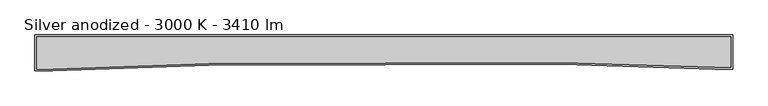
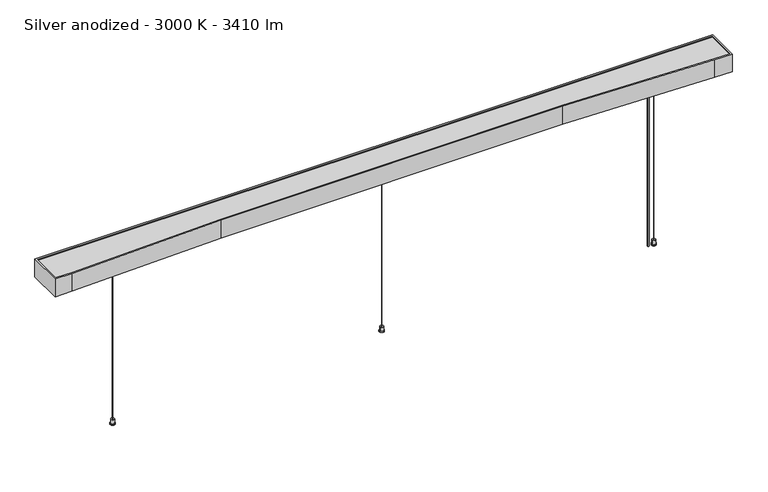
"""IFC4 building model written with IfcOpenShell, lengths in millimetres: light fixture geometry, KLUŚ - MIFOR - MI-WAVE-04 : Silver anodized - 3000 K - 3410 lm."""

import ifcopenshell
import ifcopenshell.guid

model = None  # the IFC model being written
_history = None  # IfcOwnerHistory: only IFC2X3 demands one
_inside = {}  # id of a spatial element -> (the spatial element, [elements in it])
_under = {}  # id of a project, library or spatial element -> (it, [spatial elements below it])
_declared = {}  # id of a project -> (the project, [libraries it declares])
_typed = {}  # id of a type object -> (the type object, [elements of that type])
_made_of = {}  # id of a material, layer set ... -> (it, [elements and type objects made of it])


def new_model(schema):
    """Start an empty IFC model of exactly this schema.

    Asked for "IFC4X3", IfcOpenShell would pick the latest addendum, in which some entities
    have other attributes; the version numbers below select the first issue.
    IFC2X3 requires an IfcOwnerHistory on every rooted entity: one is made here for all.
    """
    global model, _history
    if schema == "IFC4X3":
        model = ifcopenshell.file(schema_version=(4, 3, 0, 0))
    else:
        model = ifcopenshell.file(schema=schema)
    _inside.clear()
    _under.clear()
    _declared.clear()
    _typed.clear()
    _made_of.clear()
    _history = None
    if model.schema == "IFC2X3":
        org = make("IfcOrganization", Name="unknown")
        user = make(
            "IfcPersonAndOrganization",
            ThePerson=make("IfcPerson", FamilyName="unknown"),
            TheOrganization=org,
        )
        app = make(
            "IfcApplication",
            ApplicationDeveloper=org,
            Version="unknown",
            ApplicationFullName="unknown",
            ApplicationIdentifier="unknown",
        )
        _history = make(
            "IfcOwnerHistory",
            OwningUser=user,
            OwningApplication=app,
            ChangeAction="ADDED",
            CreationDate=0,
        )
    return model


def make(cls, **values):
    """One entity of the class cls with the attributes given. An attribute that is None is left unset."""
    return model.create_entity(
        cls, **{name: value for name, value in values.items() if value is not None}
    )


def rooted(cls, **values):
    """An entity with a GlobalId (a new one), such as an element, a storey or a relation."""
    return make(cls, GlobalId=ifcopenshell.guid.new(), OwnerHistory=_history, **values)


def si_unit(unit_type, name, prefix=None):
    """IfcSIUnit, for example si_unit("LENGTHUNIT", "METRE", prefix="MILLI")."""
    return make("IfcSIUnit", UnitType=unit_type, Prefix=prefix, Name=name)


def assignment(units):
    """IfcUnitAssignment: the units of a project."""
    return None if units is None else make("IfcUnitAssignment", Units=units)


def point(xyz):
    """IfcCartesianPoint."""
    return None if xyz is None else make("IfcCartesianPoint", Coordinates=xyz)


def direction(xyz):
    """IfcDirection."""
    return None if xyz is None else make("IfcDirection", DirectionRatios=xyz)


def frame(location, z_axis=None, x_axis=None):
    """IfcAxis2Placement3D, a coordinate frame: its origin and axes. An axis left out is left unset."""
    return make(
        "IfcAxis2Placement3D",
        Location=point(location),
        Axis=direction(z_axis),
        RefDirection=direction(x_axis),
    )


def frame_2d(location, x_axis=None):
    """IfcAxis2Placement2D, a coordinate frame in the plane: its origin and x axis."""
    return make(
        "IfcAxis2Placement2D", Location=point(location), RefDirection=direction(x_axis)
    )


def origin():
    """The frame at (0, 0, 0) with its axes left unset."""
    return frame((0.0, 0.0, 0.0))


def origin_with_axes():
    """The frame at (0, 0, 0) with the z axis (0, 0, 1) and the x axis (1, 0, 0) written out."""
    return frame((0.0, 0.0, 0.0), z_axis=(0.0, 0.0, 1.0), x_axis=(1.0, 0.0, 0.0))


def place(relative_to, where):
    """IfcLocalPlacement: puts the frame where relative to a parent placement (None: the world)."""
    return make(
        "IfcLocalPlacement", PlacementRelTo=relative_to, RelativePlacement=where
    )


def context(
    kind, dimensions, precision=None, world=None, true_north=None, identifier=None
):
    """IfcGeometricRepresentationContext, for example the 3D "Model" context."""
    return make(
        "IfcGeometricRepresentationContext",
        ContextIdentifier=identifier,
        ContextType=kind,
        CoordinateSpaceDimension=dimensions,
        Precision=precision,
        WorldCoordinateSystem=world,
        TrueNorth=true_north,
    )


def project(units=None, contexts=None):
    """IfcProject with its units and contexts."""
    return rooted(
        "IfcProject",
        Name="project",
        RepresentationContexts=contexts,
        UnitsInContext=assignment(units),
    )


def spatial(cls, under=None, at=None, **own):
    """A site, building, storey or space (cls), placed at a placement, below another one or the project."""
    s = rooted(cls, ObjectPlacement=at, **own)
    if under is not None:
        _under.setdefault(under.id(), (under, []))[1].append(s)
    return s


def polyline(points):
    """IfcPolyline through the points."""
    return make("IfcPolyline", Points=[point(p) for p in points])


def circle_curve(where, radius):
    """IfcCircle in the frame where."""
    return make("IfcCircle", Position=where, Radius=radius)


def trimmed(basis, trim1, trim2, sense, master):
    """IfcTrimmedCurve: the piece of a basis curve between two trims."""
    return make(
        "IfcTrimmedCurve",
        BasisCurve=basis,
        Trim1=trim1,
        Trim2=trim2,
        SenseAgreement=sense,
        MasterRepresentation=master,
    )


def segment(curve, same_sense, transition):
    """IfcCompositeCurveSegment."""
    return make(
        "IfcCompositeCurveSegment",
        Transition=transition,
        SameSense=same_sense,
        ParentCurve=curve,
    )


def composite_curve(segments, self_intersect=None):
    """IfcCompositeCurve: segments joined end to end."""
    return make("IfcCompositeCurve", Segments=segments, SelfIntersect=self_intersect)


def outline(outer, holes=None, kind="AREA"):
    """IfcArbitraryClosedProfileDef: a profile drawn as a closed curve; with holes, ...WithVoids."""
    if holes is None:
        return make("IfcArbitraryClosedProfileDef", ProfileType=kind, OuterCurve=outer)
    return make(
        "IfcArbitraryProfileDefWithVoids",
        ProfileType=kind,
        OuterCurve=outer,
        InnerCurves=holes,
    )


def extrude(swept, where, along, depth):
    """IfcExtrudedAreaSolid: the profile swept, set in the frame where, extruded along a direction by depth."""
    return make(
        "IfcExtrudedAreaSolid",
        SweptArea=swept,
        Position=where,
        ExtrudedDirection=direction(along),
        Depth=depth,
    )


def shape(context_of_items, identifier, shape_type, items):
    """IfcShapeRepresentation: the items that make up one representation, for example the "Body"."""
    return make(
        "IfcShapeRepresentation",
        ContextOfItems=context_of_items,
        RepresentationIdentifier=identifier,
        RepresentationType=shape_type,
        Items=items,
    )


def source(mapping_origin, context_of_items, identifier, shape_type, items):
    """IfcRepresentationMap: a shape defined once, which mapped items show again and again."""
    return make(
        "IfcRepresentationMap",
        MappingOrigin=mapping_origin,
        MappedRepresentation=shape(context_of_items, identifier, shape_type, items),
    )


def transform(
    local_origin,
    x_axis=None,
    y_axis=None,
    z_axis=None,
    scale=None,
    scale2=None,
    scale3=None,
    uniform=True,
):
    """IfcCartesianTransformationOperator3D, or its non-uniform kind. x_axis, y_axis, z_axis: its Axis1, 2, 3."""
    if uniform:
        return make(
            "IfcCartesianTransformationOperator3D",
            Axis1=direction(x_axis),
            Axis2=direction(y_axis),
            LocalOrigin=point(local_origin),
            Scale=scale,
            Axis3=direction(z_axis),
        )
    return make(
        "IfcCartesianTransformationOperator3DnonUniform",
        Axis1=direction(x_axis),
        Axis2=direction(y_axis),
        LocalOrigin=point(local_origin),
        Scale=scale,
        Axis3=direction(z_axis),
        Scale2=scale2,
        Scale3=scale3,
    )


def mapped(mapping_source, mapping_target):
    """IfcMappedItem: shows the shape of a source again, moved by a transform."""
    return make(
        "IfcMappedItem", MappingSource=mapping_source, MappingTarget=mapping_target
    )


def made_of(thing, what):
    """Note that an element or type object is made of a material, layer set ...; save() writes the relation."""
    if what is not None:
        _made_of.setdefault(what.id(), (what, []))[1].append(thing)
    return thing


def element(
    cls,
    number,
    at=None,
    inside=None,
    cuts=None,
    type_object=None,
    material=None,
    context=None,
    identifier="Body",
    shape_type=None,
    held_by="IfcProductDefinitionShape",
    body=None,
    shapes=None,
    **own,
):
    """One element of the class cls, such as IfcWall. Its Tag is "e" and its number.

    at: its placement. inside: the storey or other place that contains it. cuts: it is an
    opening in that element (IfcRelVoidsElement). A single representation is given by context,
    identifier, shape_type and body (its items); several are given by shapes. held_by: the class
    of the entity that holds the representations. save() writes the other relations.
    """
    e = rooted(cls, Tag="e%d" % number, ObjectPlacement=at, **own)
    if body is not None:
        shapes = [shape(context, identifier, shape_type, body)]
    if shapes is not None:
        e.Representation = make(held_by, Representations=shapes)
    if inside is not None:
        _inside.setdefault(inside.id(), (inside, []))[1].append(e)
    if cuts is not None:
        rooted(
            "IfcRelVoidsElement", RelatingBuildingElement=cuts, RelatedOpeningElement=e
        )
    if type_object is not None:
        _typed.setdefault(type_object.id(), (type_object, []))[1].append(e)
    return made_of(e, material)


def aggregate(whole, parts):
    """IfcRelAggregates: a whole, such as a stair, and the parts it consists of."""
    return rooted("IfcRelAggregates", RelatingObject=whole, RelatedObjects=parts)


def save(model, path):
    """Write the relations noted so far, then the file.

    IfcRelAggregates (storeys below a building ...), IfcRelContainedInSpatialStructure (elements
    in a storey), IfcRelDefinesByType, IfcRelAssociatesMaterial and IfcRelDeclares: one each for
    every whole, place, type object, material and project.
    """
    for whole, parts in _under.values():
        aggregate(whole, parts)
    for where, things in _inside.values():
        rooted(
            "IfcRelContainedInSpatialStructure",
            RelatedElements=things,
            RelatingStructure=where,
        )
    for kind, things in _typed.values():
        rooted("IfcRelDefinesByType", RelatedObjects=things, RelatingType=kind)
    for what, things in _made_of.values():
        rooted("IfcRelAssociatesMaterial", RelatedObjects=things, RelatingMaterial=what)
    for by, libraries in _declared.values():
        rooted("IfcRelDeclares", RelatingContext=by, RelatedDefinitions=libraries)
    model.write(path)


def silver_anodized_3000_k_3410_lm_6d61cf27(model_context):
    return source(origin(), model_context, "Body", "SweptSolid", [
        extrude(outline(composite_curve([segment(trimmed(circle_curve(frame_2d((-798.706025, 3.2238962)), 1.75), [point((-796.956025, 3.2238962))], [point((-800.456025, 3.2238962))], False, "CARTESIAN"), True, "CONTINUOUS"), segment(trimmed(circle_curve(frame_2d((-798.706025, 3.2238962)), 1.75), [point((-800.456025, 3.2238962))], [point((-796.956025, 3.2238962))], False, "CARTESIAN"), True, "CONTINUOUS")], self_intersect=False)), frame((0.0, 0.0, 500.5), z_axis=(0.0, 0.0, 1.0), x_axis=(1.0, 0.0, 0.0)), (0.0, 0.0, 1.0), 3.5),
        extrude(outline(composite_curve([segment(trimmed(circle_curve(frame_2d((3.3794957, 17.488969)), 1.75), [point((5.1294957, 17.488969))], [point((1.6294957, 17.488969))], False, "CARTESIAN"), True, "CONTINUOUS"), segment(trimmed(circle_curve(frame_2d((3.3794957, 17.488969)), 1.75), [point((1.6294957, 17.488969))], [point((5.1294957, 17.488969))], False, "CARTESIAN"), True, "CONTINUOUS")], self_intersect=False)), frame((0.0, 0.0, 500.5), z_axis=(0.0, 0.0, 1.0), x_axis=(1.0, 0.0, 0.0)), (0.0, 0.0, 1.0), 3.5),
        extrude(outline(composite_curve([segment(trimmed(circle_curve(frame_2d((798.293975, 4.6912572)), 1.75), [point((800.043975, 4.6912572))], [point((796.543975, 4.6912572))], False, "CARTESIAN"), True, "CONTINUOUS"), segment(trimmed(circle_curve(frame_2d((798.293975, 4.6912572)), 1.75), [point((796.543975, 4.6912572))], [point((800.043975, 4.6912572))], False, "CARTESIAN"), True, "CONTINUOUS")], self_intersect=False)), frame((0.0, 0.0, 500.5), z_axis=(0.0, 0.0, 1.0), x_axis=(1.0, 0.0, 0.0)), (0.0, 0.0, 1.0), 3.5),
        extrude(outline(composite_curve([segment(trimmed(circle_curve(frame_2d((798.293975, 4.6912572)), 5.0), [point((803.293975, 4.6912572))], [point((793.293975, 4.6912572))], False, "CARTESIAN"), True, "CONTINUOUS"), segment(trimmed(circle_curve(frame_2d((798.293975, 4.6912572)), 5.0), [point((793.293975, 4.6912572))], [point((803.293975, 4.6912572))], False, "CARTESIAN"), True, "CONTINUOUS")], self_intersect=False)), frame((0.0, 0.0, 3.0), z_axis=(0.0, 0.0, 1.0), x_axis=(1.0, 0.0, 0.0)), (0.0, 0.0, 1.0), 12.0),
        extrude(outline(composite_curve([segment(trimmed(circle_curve(frame_2d((3.3794957, 17.488969)), 5.0), [point((8.3794957, 17.488969))], [point((-1.6205043, 17.488969))], False, "CARTESIAN"), True, "CONTINUOUS"), segment(trimmed(circle_curve(frame_2d((3.3794957, 17.488969)), 5.0), [point((-1.6205043, 17.488969))], [point((8.3794957, 17.488969))], False, "CARTESIAN"), True, "CONTINUOUS")], self_intersect=False)), frame((0.0, 0.0, 3.0), z_axis=(0.0, 0.0, 1.0), x_axis=(1.0, 0.0, 0.0)), (0.0, 0.0, 1.0), 12.0),
        extrude(outline(composite_curve([segment(trimmed(circle_curve(frame_2d((-798.706025, 3.2238962)), 5.0), [point((-793.706025, 3.2238962))], [point((-803.706025, 3.2238962))], False, "CARTESIAN"), True, "CONTINUOUS"), segment(trimmed(circle_curve(frame_2d((-798.706025, 3.2238962)), 5.0), [point((-803.706025, 3.2238962))], [point((-793.706025, 3.2238962))], False, "CARTESIAN"), True, "CONTINUOUS")], self_intersect=False)), frame((0.0, 0.0, 3.0), z_axis=(0.0, 0.0, 1.0), x_axis=(1.0, 0.0, 0.0)), (0.0, 0.0, 1.0), 12.0),
        extrude(outline(composite_curve([segment(trimmed(circle_curve(frame_2d((783.2174072, 5.9999743)), 2.5), [point((785.7174072, 5.9999743))], [point((780.7174072, 5.9999743))], False, "CARTESIAN"), True, "CONTINUOUS"), segment(trimmed(circle_curve(frame_2d((783.2174072, 5.9999743)), 2.5), [point((780.7174072, 5.9999743))], [point((785.7174072, 5.9999743))], False, "CARTESIAN"), True, "CONTINUOUS")], self_intersect=False)), origin_with_axes(), (0.0, 0.0, 1.0), 516.0),
        extrude(outline(composite_curve([segment(polyline([(-995.0, 46.3849927), (995.0, 46.3849927), (995.0, -41.827551), (948.5, -41.827551)]), True, "CONTINUOUS"), segment(trimmed(circle_curve(frame_2d((948.5, 7011.1484084)), 7052.9759593), [point((948.5, -41.827551))], [point((509.0495555, -28.1237976))], False, "CARTESIAN"), True, "CONTINUOUS"), segment(trimmed(circle_curve(frame_2d((26.5745639, -7756.5783735)), 7743.5), [point((509.0495555, -28.1237976))], [point((-501.8012154, -31.1262))], True, "CARTESIAN"), True, "CONTINUOUS"), segment(trimmed(circle_curve(frame_2d((-948.5, 6500.1158294)), 6546.5), [point((-501.8012154, -31.1262))], [point((-948.5, -46.3841706))], False, "CARTESIAN"), True, "CONTINUOUS"), segment(polyline([(-948.5, -46.3841706), (-995.0, -46.3841706), (-995.0, 46.3849927)]), True, "CONTINUOUS")], self_intersect=False)), frame((0.0, 0.0, 516.0), z_axis=(0.0, 0.0, 1.0), x_axis=(1.0, 0.0, 0.0)), (0.0, 0.0, 1.0), 2.0),
        extrude(outline(composite_curve([segment(polyline([(-995.0, 46.3849927), (995.0, 46.3849927), (995.0, -41.827551), (948.5, -41.827551)]), True, "CONTINUOUS"), segment(trimmed(circle_curve(frame_2d((948.5, 7011.1484084)), 7052.9759593), [point((948.5, -41.827551))], [point((509.0495555, -28.1237976))], False, "CARTESIAN"), True, "CONTINUOUS"), segment(trimmed(circle_curve(frame_2d((26.5745639, -7756.5783735)), 7743.5), [point((509.0495555, -28.1237976))], [point((-501.8012154, -31.1262))], True, "CARTESIAN"), True, "CONTINUOUS"), segment(trimmed(circle_curve(frame_2d((-948.5, 6500.1158294)), 6546.5), [point((-501.8012154, -31.1262))], [point((-948.5, -46.3841706))], False, "CARTESIAN"), True, "CONTINUOUS"), segment(polyline([(-948.5, -46.3841706), (-995.0, -46.3841706), (-995.0, 46.3849927)]), True, "CONTINUOUS")], self_intersect=False)), frame((0.0, 0.0, 551.0), z_axis=(0.0, 0.0, 1.0), x_axis=(1.0, 0.0, 0.0)), (0.0, 0.0, 1.0), 2.0),
        extrude(outline(composite_curve([segment(polyline([(-1000.0, 51.3849927), (1000.0, 51.3849927), (1000.0, -46.827551), (948.5, -46.827551)]), True, "CONTINUOUS"), segment(trimmed(circle_curve(frame_2d((948.5, 7011.1484084)), 7057.9759593), [point((948.5, -46.827551))], [point((508.73802, -33.1140827))], False, "CARTESIAN"), True, "CONTINUOUS"), segment(trimmed(circle_curve(frame_2d((26.5745639, -7756.5783735)), 7738.5), [point((508.73802, -33.1140827))], [point((-501.4600416, -36.1145465))], True, "CARTESIAN"), True, "CONTINUOUS"), segment(trimmed(circle_curve(frame_2d((-948.5, 6500.1158294)), 6551.5), [point((-501.4600416, -36.1145465))], [point((-948.5, -51.3841706))], False, "CARTESIAN"), True, "CONTINUOUS"), segment(polyline([(-948.5, -51.3841706), (-1000.0, -51.3841706), (-1000.0, 51.3849927)]), True, "CONTINUOUS")], self_intersect=False), holes=[composite_curve([segment(polyline([(-995.0, 46.3849927), (-995.0, -46.3841706), (-948.5, -46.3841706)]), True, "CONTINUOUS"), segment(trimmed(circle_curve(frame_2d((-948.5, 6500.1158294)), 6546.5), [point((-948.5, -46.3841706))], [point((-501.8012154, -31.1262))], True, "CARTESIAN"), True, "CONTINUOUS"), segment(trimmed(circle_curve(frame_2d((26.5745639, -7756.5783735)), 7743.5), [point((-501.8012154, -31.1262))], [point((509.0495555, -28.1237976))], False, "CARTESIAN"), True, "CONTINUOUS"), segment(trimmed(circle_curve(frame_2d((948.5, 7011.1484084)), 7052.9759593), [point((509.0495555, -28.1237976))], [point((948.5, -41.827551))], True, "CARTESIAN"), True, "CONTINUOUS"), segment(polyline([(948.5, -41.827551), (995.0, -41.827551), (995.0, 46.3849927), (-995.0, 46.3849927)]), True, "CONTINUOUS")], self_intersect=False)]), frame((0.0, 0.0, 500.0), z_axis=(0.0, 0.0, 1.0), x_axis=(1.0, 0.0, 0.0)), (0.0, 0.0, 1.0), 55.0),
        extrude(outline(composite_curve([segment(trimmed(circle_curve(frame_2d((798.293975, 4.6912572)), 0.5), [point((798.793975, 4.6912572))], [point((797.793975, 4.6912572))], False, "CARTESIAN"), True, "CONTINUOUS"), segment(trimmed(circle_curve(frame_2d((798.293975, 4.6912572)), 0.5), [point((797.793975, 4.6912572))], [point((798.793975, 4.6912572))], False, "CARTESIAN"), True, "CONTINUOUS")], self_intersect=False)), frame((0.0, 0.0, 15.0), z_axis=(0.0, 0.0, 1.0), x_axis=(1.0, 0.0, 0.0)), (0.0, 0.0, 1.0), 485.5),
        extrude(outline(composite_curve([segment(trimmed(circle_curve(frame_2d((3.3794957, 17.488969)), 0.5), [point((3.8794957, 17.488969))], [point((2.8794957, 17.488969))], False, "CARTESIAN"), True, "CONTINUOUS"), segment(trimmed(circle_curve(frame_2d((3.3794957, 17.488969)), 0.5), [point((2.8794957, 17.488969))], [point((3.8794957, 17.488969))], False, "CARTESIAN"), True, "CONTINUOUS")], self_intersect=False)), frame((0.0, 0.0, 15.0), z_axis=(0.0, 0.0, 1.0), x_axis=(1.0, 0.0, 0.0)), (0.0, 0.0, 1.0), 485.5),
        extrude(outline(composite_curve([segment(trimmed(circle_curve(frame_2d((-798.706025, 3.2238962)), 0.5), [point((-798.206025, 3.2238962))], [point((-799.206025, 3.2238962))], False, "CARTESIAN"), True, "CONTINUOUS"), segment(trimmed(circle_curve(frame_2d((-798.706025, 3.2238962)), 0.5), [point((-799.206025, 3.2238962))], [point((-798.206025, 3.2238962))], False, "CARTESIAN"), True, "CONTINUOUS")], self_intersect=False)), frame((0.0, 0.0, 15.0), z_axis=(0.0, 0.0, 1.0), x_axis=(1.0, 0.0, 0.0)), (0.0, 0.0, 1.0), 485.5),
        extrude(outline(composite_curve([segment(trimmed(circle_curve(frame_2d((798.293975, 4.6912572)), 4.0), [point((802.293975, 4.6912572))], [point((794.293975, 4.6912572))], False, "CARTESIAN"), True, "CONTINUOUS"), segment(trimmed(circle_curve(frame_2d((798.293975, 4.6912572)), 4.0), [point((794.293975, 4.6912572))], [point((802.293975, 4.6912572))], False, "CARTESIAN"), True, "CONTINUOUS")], self_intersect=False)), frame((0.0, 0.0, 504.0), z_axis=(0.0, 0.0, 1.0), x_axis=(1.0, 0.0, 0.0)), (0.0, 0.0, 1.0), 12.0),
        extrude(outline(composite_curve([segment(trimmed(circle_curve(frame_2d((3.3794957, 17.488969)), 4.0), [point((7.3794957, 17.488969))], [point((-0.6205043, 17.488969))], False, "CARTESIAN"), True, "CONTINUOUS"), segment(trimmed(circle_curve(frame_2d((3.3794957, 17.488969)), 4.0), [point((-0.6205043, 17.488969))], [point((7.3794957, 17.488969))], False, "CARTESIAN"), True, "CONTINUOUS")], self_intersect=False)), frame((0.0, 0.0, 504.0), z_axis=(0.0, 0.0, 1.0), x_axis=(1.0, 0.0, 0.0)), (0.0, 0.0, 1.0), 12.0),
        extrude(outline(composite_curve([segment(trimmed(circle_curve(frame_2d((-798.706025, 3.2238962)), 4.0), [point((-794.706025, 3.2238962))], [point((-802.706025, 3.2238962))], False, "CARTESIAN"), True, "CONTINUOUS"), segment(trimmed(circle_curve(frame_2d((-798.706025, 3.2238962)), 4.0), [point((-802.706025, 3.2238962))], [point((-794.706025, 3.2238962))], False, "CARTESIAN"), True, "CONTINUOUS")], self_intersect=False)), frame((0.0, 0.0, 504.0), z_axis=(0.0, 0.0, 1.0), x_axis=(1.0, 0.0, 0.0)), (0.0, 0.0, 1.0), 12.0),
        extrude(outline(composite_curve([segment(trimmed(circle_curve(frame_2d((798.293975, 4.6912572)), 7.0), [point((805.293975, 4.6912572))], [point((791.293975, 4.6912572))], False, "CARTESIAN"), True, "CONTINUOUS"), segment(trimmed(circle_curve(frame_2d((798.293975, 4.6912572)), 7.0), [point((791.293975, 4.6912572))], [point((805.293975, 4.6912572))], False, "CARTESIAN"), True, "CONTINUOUS")], self_intersect=False)), origin_with_axes(), (0.0, 0.0, 1.0), 3.0),
        extrude(outline(composite_curve([segment(trimmed(circle_curve(frame_2d((3.3794957, 17.488969)), 7.0), [point((10.3794957, 17.488969))], [point((-3.6205043, 17.488969))], False, "CARTESIAN"), True, "CONTINUOUS"), segment(trimmed(circle_curve(frame_2d((3.3794957, 17.488969)), 7.0), [point((-3.6205043, 17.488969))], [point((10.3794957, 17.488969))], False, "CARTESIAN"), True, "CONTINUOUS")], self_intersect=False)), origin_with_axes(), (0.0, 0.0, 1.0), 3.0),
        extrude(outline(composite_curve([segment(trimmed(circle_curve(frame_2d((-798.706025, 3.2238962)), 7.0), [point((-791.706025, 3.2238962))], [point((-805.706025, 3.2238962))], False, "CARTESIAN"), True, "CONTINUOUS"), segment(trimmed(circle_curve(frame_2d((-798.706025, 3.2238962)), 7.0), [point((-805.706025, 3.2238962))], [point((-791.706025, 3.2238962))], False, "CARTESIAN"), True, "CONTINUOUS")], self_intersect=False)), origin_with_axes(), (0.0, 0.0, 1.0), 3.0),
    ])


if __name__ == "__main__":
    model = new_model("IFC4")
    model_context = context("Model", 3, world=origin())
    ifc_project = project(units=[si_unit("LENGTHUNIT", "METRE", prefix="MILLI")], contexts=[model_context])
    site = spatial("IfcSite", under=ifc_project)
    building = spatial("IfcBuilding", under=site)
    placement = place(None, origin())
    silver_anodized_3000_k_3410_lm_shape = silver_anodized_3000_k_3410_lm_6d61cf27(model_context)
    element("IfcLightFixture", 1, ObjectType="KLUŚ - MIFOR - MI-WAVE-04 : Silver anodized - 3000 K - 3410 lm", at=placement, inside=building, context=model_context, shape_type="MappedRepresentation", body=[
        mapped(silver_anodized_3000_k_3410_lm_shape, transform((0.0, 0.0, 0.0), x_axis=(1.0, 0.0, 0.0), y_axis=(0.0, 1.0, 0.0), z_axis=(0.0, 0.0, 1.0))),
    ])
    save(model, "model.ifc")
